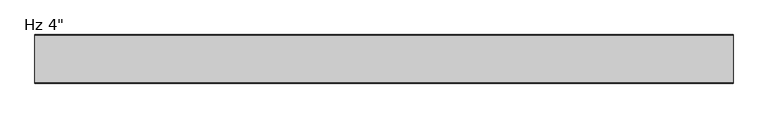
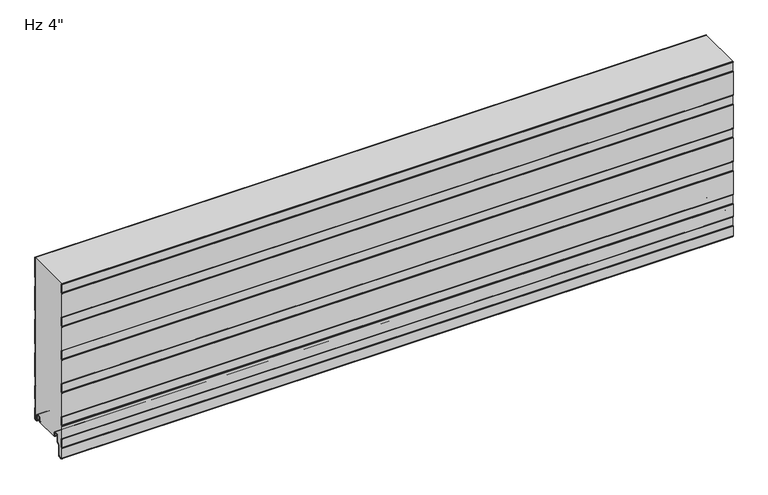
"""IFC4 building model written with IfcOpenShell, lengths in millimetres: plate geometry."""

from ifc_helpers import new_model, si_unit, point, frame, frame_2d, origin, place, context, project, spatial, polyline, circle_curve, trimmed, segment, composite_curve, outline, extrude, source, transform, mapped, element, save
from ifc_brep_helpers import plane_surface, cylinder_surface, revolved_surface, advanced_brep


def plate_e7929396(model_context):
    return source(origin(), model_context, "Body", "SolidModel", [
        extrude(outline(composite_curve([segment(trimmed(circle_curve(frame_2d((-100.1998717, -10.6415934)), 1.3998661), [point((-101.5997378, -10.6415934))], [point((-101.1324955, -9.5976403))], False, "CARTESIAN"), True, "CONTINUOUS"), segment(polyline([(-101.1324955, -9.5976403), (-100.3997693, -8.8649141), (-100.3997693, 10.0260713), (-101.1327349, 10.7590369)]), True, "CONTINUOUS"), segment(trimmed(circle_curve(frame_2d((-100.2000237, 11.8030877)), 1.3999972), [point((-101.1327349, 10.7590369))], [point((-101.6, 11.810741))], False, "CARTESIAN"), True, "CONTINUOUS"), segment(polyline([(-101.6, 11.810741), (-101.6, 40.1582542)]), True, "CONTINUOUS"), segment(trimmed(circle_curve(frame_2d((-100.2000028, 40.1582542)), 1.3999972), [point((-101.6, 40.1582542))], [point((-101.132714, 41.202305))], False, "CARTESIAN"), True, "CONTINUOUS"), segment(polyline([(-101.132714, 41.202305), (-100.3997693, 41.9352497), (-100.3997693, 60.8259189), (-101.1327349, 61.5588845)]), True, "CONTINUOUS"), segment(trimmed(circle_curve(frame_2d((-100.2000237, 62.6029353)), 1.3999972), [point((-101.1327349, 61.5588845))], [point((-101.6, 62.6105886))], False, "CARTESIAN"), True, "CONTINUOUS"), segment(polyline([(-101.6, 62.6105886), (-101.6, 116.3581018)]), True, "CONTINUOUS"), segment(trimmed(circle_curve(frame_2d((-100.2000028, 116.3581018)), 1.3999972), [point((-101.6, 116.3581018))], [point((-101.132714, 117.4021526))], False, "CARTESIAN"), True, "CONTINUOUS"), segment(polyline([(-101.132714, 117.4021526), (-100.3997693, 118.1350973), (-100.3997693, 137.0257665), (-101.1327349, 137.7587321)]), True, "CONTINUOUS"), segment(trimmed(circle_curve(frame_2d((-100.2000237, 138.8027829)), 1.3999972), [point((-101.1327349, 137.7587321))], [point((-101.6, 138.8104362))], False, "CARTESIAN"), True, "CONTINUOUS"), segment(polyline([(-101.6, 138.8104362), (-101.6, 192.5579494)]), True, "CONTINUOUS"), segment(trimmed(circle_curve(frame_2d((-100.2000028, 192.5579494)), 1.3999972), [point((-101.6, 192.5579494))], [point((-101.132714, 193.6020002))], False, "CARTESIAN"), True, "CONTINUOUS"), segment(polyline([(-101.132714, 193.6020002), (-100.3997693, 194.3349449), (-100.3997693, 213.2256141), (-101.1327349, 213.9585797)]), True, "CONTINUOUS"), segment(trimmed(circle_curve(frame_2d((-100.2000237, 215.0026305)), 1.3999972), [point((-101.1327349, 213.9585797))], [point((-101.6, 215.0102838))], False, "CARTESIAN"), True, "CONTINUOUS"), segment(polyline([(-101.6, 215.0102838), (-101.6, 268.757797)]), True, "CONTINUOUS"), segment(trimmed(circle_curve(frame_2d((-100.2000028, 268.757797)), 1.3999972), [point((-101.6, 268.757797))], [point((-101.132714, 269.8018478))], False, "CARTESIAN"), True, "CONTINUOUS"), segment(polyline([(-101.132714, 269.8018478), (-100.3997693, 270.5347925), (-100.3997693, 289.4254617), (-101.1327349, 290.1584273)]), True, "CONTINUOUS"), segment(trimmed(circle_curve(frame_2d((-100.2000237, 291.2024781)), 1.3999972), [point((-101.1327349, 290.1584273))], [point((-101.6, 291.2101314))], False, "CARTESIAN"), True, "CONTINUOUS"), segment(polyline([(-101.6, 291.2101314), (-101.6, 344.9576446)]), True, "CONTINUOUS"), segment(trimmed(circle_curve(frame_2d((-100.2000028, 344.9576446)), 1.3999972), [point((-101.6, 344.9576446))], [point((-101.132714, 346.0016954))], False, "CARTESIAN"), True, "CONTINUOUS"), segment(polyline([(-101.132714, 346.0016954), (-100.3997693, 346.7346401), (-100.3997693, 365.6253093), (-101.1327349, 366.3582749)]), True, "CONTINUOUS"), segment(trimmed(circle_curve(frame_2d((-100.2000237, 367.4023257)), 1.3999972), [point((-101.1327349, 366.3582749))], [point((-101.6, 367.409979))], False, "CARTESIAN"), True, "CONTINUOUS"), segment(polyline([(-101.6, 367.409979), (-101.6, 368.0), (-100.6, 368.0), (-100.6, 367.240544), (-99.3997693, 366.0403133), (-99.3997693, 346.3209008), (-100.6, 345.1206701), (-100.6, 291.0405383), (-99.3997693, 289.8403076), (-99.3997693, 270.1208951), (-100.6, 268.9206644), (-100.6, 214.8405326), (-99.3997693, 213.6403019), (-99.3997693, 193.9208894), (-100.6, 192.7206587), (-100.6, 138.6405269), (-99.3997693, 137.4402962), (-99.3997693, 117.7208837), (-100.6, 116.520653), (-100.6, 62.4405213), (-99.3997693, 61.2402905), (-99.3997693, 41.520878), (-100.6, 40.3206473), (-100.6, 11.6405156), (-99.3997693, 10.4402849), (-99.3997693, -9.2791277), (-100.5997378, -10.4790962), (-100.5997378, -32.4521176)]), True, "CONTINUOUS"), segment(trimmed(circle_curve(frame_2d((-98.0294985, -32.4521176)), 2.5702393), [point((-100.5997378, -32.4521176))], [point((-97.8054129, -35.0125699))], True, "CARTESIAN"), True, "CONTINUOUS"), segment(polyline([(-97.8054129, -35.0125699), (-92.823592, -34.5765709)]), True, "CONTINUOUS"), segment(trimmed(circle_curve(frame_2d((-93.3049826, -31.9198392)), 2.6999926), [point((-92.823592, -34.5765709))], [point((-90.60499, -31.9198392))], True, "CARTESIAN"), True, "CONTINUOUS"), segment(polyline([(-90.60499, -31.9198392), (-90.60499, -9.8247096), (-85.1029189, -4.3226385)]), True, "CONTINUOUS"), segment(trimmed(circle_curve(frame_2d((-86.3049966, -3.1205608)), 1.6999946), [point((-85.1029189, -4.3226385))], [point((-84.605002, -3.1205608))], True, "CARTESIAN"), True, "CONTINUOUS"), segment(polyline([(-84.605002, -3.1205608), (-84.605002, 8.6903283)]), True, "CONTINUOUS"), segment(trimmed(circle_curve(frame_2d((-81.2550067, 8.6903283)), 3.3499953), [point((-84.605002, 8.6903283))], [point((-81.2550067, 12.0403236))], False, "CARTESIAN"), True, "CONTINUOUS"), segment(polyline([(-81.2550067, 12.0403236), (-76.8550155, 12.0403236)]), True, "CONTINUOUS"), segment(trimmed(circle_curve(frame_2d((-76.8550155, 8.6903283)), 3.3499953), [point((-76.8550155, 12.0403236))], [point((-73.5050202, 8.6903283))], False, "CARTESIAN"), True, "CONTINUOUS"), segment(polyline([(-73.5050202, 8.6903283), (-73.5050202, 5.9912173), (-72.1065413, 5.9912173), (-72.1065413, 2.2328239)]), True, "CONTINUOUS"), segment(trimmed(circle_curve(frame_2d((-73.306538, 2.2313092)), 1.1999976), [point((-72.1065413, 2.2328239))], [point((-73.2760161, 1.0316999))], False, "CARTESIAN"), True, "CONTINUOUS"), segment(trimmed(circle_curve(frame_2d((-73.306538, 2.2313092)), 1.1999976), [point((-73.2760161, 1.0316999))], [point((-74.5050202, 2.1710221))], False, "CARTESIAN"), True, "CONTINUOUS"), segment(polyline([(-74.5050202, 2.1710221), (-74.5050202, 8.6903283)]), True, "CONTINUOUS"), segment(trimmed(circle_curve(frame_2d((-76.8550155, 8.6903283)), 2.3499953), [point((-74.5050202, 8.6903283))], [point((-76.8550155, 11.0403236))], True, "CARTESIAN"), True, "CONTINUOUS"), segment(polyline([(-76.8550155, 11.0403236), (-81.2550067, 11.0403236)]), True, "CONTINUOUS"), segment(trimmed(circle_curve(frame_2d((-81.2550067, 8.6903283)), 2.3499953), [point((-81.2550067, 11.0403236))], [point((-83.605002, 8.6903283))], True, "CARTESIAN"), True, "CONTINUOUS"), segment(polyline([(-83.605002, 8.6903283), (-83.605002, -3.1205608)]), True, "CONTINUOUS"), segment(trimmed(circle_curve(frame_2d((-86.3049966, -3.1205608)), 2.6999946), [point((-83.605002, -3.1205608))], [point((-84.3958121, -5.0297453))], False, "CARTESIAN"), True, "CONTINUOUS"), segment(polyline([(-84.3958121, -5.0297453), (-89.2242296, -9.8581627)]), True, "CONTINUOUS"), segment(trimmed(circle_curve(frame_2d((-88.3049926, -10.7773997)), 1.2999974), [point((-89.2242296, -9.8581627))], [point((-89.60499, -10.7773997))], True, "CARTESIAN"), True, "CONTINUOUS"), segment(polyline([(-89.60499, -10.7773997), (-89.60499, -31.9198392)]), True, "CONTINUOUS"), segment(trimmed(circle_curve(frame_2d((-93.3049826, -31.9198392)), 3.6999926), [point((-89.60499, -31.9198392))], [point((-92.6941815, -35.5690675))], False, "CARTESIAN"), True, "CONTINUOUS"), segment(polyline([(-92.6941815, -35.5690675), (-97.7182281, -36.008762)]), True, "CONTINUOUS"), segment(trimmed(circle_curve(frame_2d((-98.0294985, -32.4521176)), 3.5702393), [point((-97.7182281, -36.008762))], [point((-101.5997378, -32.4521176))], False, "CARTESIAN"), True, "CONTINUOUS"), segment(polyline([(-101.5997378, -32.4521176), (-101.5997378, -10.6415934)]), True, "CONTINUOUS")], self_intersect=False)), frame((-730.0, 0.0, 0.0), z_axis=(1.0, 0.0, 0.0), x_axis=(0.0, 1.0, 0.0)), (0.0, 0.0, 1.0), 1460.0),
        advanced_brep(
        [(-730.0, -17.0015159, 2.0313088), (-730.0, -18.0015191, 1.0313115), (-730.0, -19.0015105, 2.0313088), (-730.0, -19.0015105, 6.0315124), (-730.0, -18.0015159, 6.0315124), (-730.0, -18.0015159, 8.7237222), (-730.0, -14.7015202, 12.0237179), (-730.0, -10.301529, 12.0237179), (-730.0, -7.0015335, 8.7237224), (-730.0, -7.0015335, -1.6962565), (-730.0, -5.2315393, -3.4662507), (-730.0, -0.9999916, -3.4662507), (-730.0, -0.9999916, 21.034026), (-730.0, -2.2002307, 22.4196686), (-730.0, -2.2002307, 41.7948349), (-730.0, -1.0, 43.1804678), (-730.0, -1.0, 71.8338832), (-730.0, -2.2002307, 73.2195162), (-730.0, -2.2002307, 92.5946825), (-730.0, -1.0, 93.9803154), (-730.0, -1.0, 148.0337308), (-730.0, -2.2002307, 149.4193638), (-730.0, -2.2002307, 168.7945301), (-730.0, -1.0, 170.180163), (-730.0, -1.0, 224.2335784), (-730.0, -2.2002307, 225.6192114), (-730.0, -2.2002307, 244.9943777), (-730.0, -1.0, 246.3800106), (-730.0, -1.0, 300.433426), (-730.0, -2.2002307, 301.819059), (-730.0, -2.2002307, 321.1942253), (-730.0, -1.0, 322.5798582), (-730.0, -1.0, 368.0), (-730.0, 0.0, 368.0), (-730.0, 0.0, 322.7290094), (-730.0, -0.3417885, 321.8123925), (-730.0, -1.2002307, 320.8213449), (-730.0, -1.2002307, 302.1919394), (-730.0, -0.3417885, 301.2008918), (-730.0, 0.0, 300.2842749), (-730.0, 0.0, 246.5291618), (-730.0, -0.3417885, 245.6125449), (-730.0, -1.2002307, 244.6214973), (-730.0, -1.2002307, 225.9920918), (-730.0, -0.3417885, 225.0010442), (-730.0, 0.0, 224.0844273), (-730.0, 0.0, 170.3293142), (-730.0, -0.3417885, 169.4126973), (-730.0, -1.2002307, 168.4216497), (-730.0, -1.2002307, 149.7922442), (-730.0, -0.3417885, 148.8011966), (-730.0, 0.0, 147.8845797), (-730.0, 0.0, 94.1294666), (-730.0, -0.3417885, 93.2128497), (-730.0, -1.2002307, 92.2218021), (-730.0, -1.2002307, 73.5923966), (-730.0, -0.3417885, 72.601349), (-730.0, 0.0, 71.6847321), (-730.0, 0.0, 43.329619), (-730.0, -0.3417885, 42.4130021), (-730.0, -1.2002307, 41.4219545), (-730.0, -1.2002307, 22.792549), (-730.0, -0.3417885, 21.8015014), (-730.0, 0.0, 20.8847931), (-730.0, 8.4e-06, -3.0662545), (-730.0, -1.3999878, -4.4662507), (-730.0, -5.2315393, -4.4662507), (-730.0, -8.0015335, -1.6962565), (-730.0, -8.0015335, 8.7237224), (-730.0, -10.301529, 11.0237179), (-730.0, -14.7015202, 11.0237179), (-730.0, -17.0015159, 8.7237222), (730.0, -17.0015159, 2.0313088), (730.0, -17.0015159, 8.7237222), (730.0, -14.7015202, 11.0237179), (730.0, -10.301529, 11.0237179), (730.0, -8.0015335, 8.7237224), (730.0, -8.0015335, -1.6962565), (730.0, -5.2315393, -4.4662507), (730.0, -1.3999878, -4.4662507), (730.0, 8.4e-06, -3.0662545), (730.0, 8.4e-06, 20.8848845), (730.0, -0.3417885, 21.8015014), (730.0, -1.2002307, 22.792549), (730.0, -1.2002307, 41.4219545), (730.0, -0.3417885, 42.4130021), (730.0, 0.0, 43.329619), (730.0, 0.0, 71.6847321), (730.0, -0.3417885, 72.601349), (730.0, -1.2002307, 73.5923966), (730.0, -1.2002307, 92.2218021), (730.0, -0.3417885, 93.2128497), (730.0, 0.0, 94.1294666), (730.0, 0.0, 147.8845797), (730.0, -0.3417885, 148.8011966), (730.0, -1.2002307, 149.7922442), (730.0, -1.2002307, 168.4216497), (730.0, -0.3417885, 169.4126973), (730.0, 0.0, 170.3293142), (730.0, 0.0, 224.0844273), (730.0, -0.3417885, 225.0010442), (730.0, -1.2002307, 225.9920918), (730.0, -1.2002307, 244.6214973), (730.0, -0.3417885, 245.6125449), (730.0, 0.0, 246.5291618), (730.0, 0.0, 300.2842749), (730.0, -0.3417885, 301.2008918), (730.0, -1.2002307, 302.1919394), (730.0, -1.2002307, 320.8213449), (730.0, -0.3417885, 321.8123925), (730.0, 0.0, 322.7290094), (730.0, 0.0, 368.0), (730.0, -1.0, 368.0), (730.0, -1.0, 322.5798582), (730.0, -2.2002307, 321.1942253), (730.0, -2.2002307, 301.819059), (730.0, -1.0, 300.433426), (730.0, -1.0, 246.3800106), (730.0, -2.2002307, 244.9943777), (730.0, -2.2002307, 225.6192114), (730.0, -1.0, 224.2335784), (730.0, -1.0, 170.180163), (730.0, -2.2002307, 168.7945301), (730.0, -2.2002307, 149.4193638), (730.0, -1.0, 148.0337308), (730.0, -1.0, 93.9803154), (730.0, -2.2002307, 92.5946825), (730.0, -2.2002307, 73.2195162), (730.0, -1.0, 71.8338832), (730.0, -1.0, 43.1804678), (730.0, -2.2002307, 41.7948349), (730.0, -2.2002307, 22.4196686), (730.0, -0.9999916, 21.034026), (730.0, -0.9999916, -3.4662507), (730.0, -5.2315393, -3.4662507), (730.0, -7.0015335, -1.6962565), (730.0, -7.0015335, 8.7237224), (730.0, -10.301529, 12.0237179), (730.0, -14.7015202, 12.0237179), (730.0, -18.0015159, 8.7237222), (730.0, -18.0015159, 6.0315124), (730.0, -19.0015105, 6.0315124), (730.0, -19.0015105, 2.0313088), (730.0, -18.0015192, 1.0313116)],
        [
            (0, 1, circle_curve(frame((-730.0, -18.0015132, 2.0313088), z_axis=(-1.0, 0.0, 0.0), x_axis=(0.0, 0.0, 1.0)), 0.9999973)),
            (1, 2, circle_curve(frame((-730.0, -18.0015133, 2.0313088), z_axis=(-1.0, 0.0, 0.0), x_axis=(0.0, 0.0, 1.0)), 0.9999972)),
            (2, 3),
            (3, 4),
            (4, 5),
            (5, 6, circle_curve(frame((-730.0, -14.7015202, 8.7237222), z_axis=(-1.0, 0.0, 0.0), x_axis=(0.0, 0.0, 1.0)), 3.2999957)),
            (6, 7),
            (7, 8, circle_curve(frame((-730.0, -10.301529, 8.7237224), z_axis=(-1.0, 0.0, 0.0), x_axis=(0.0, 0.0, 1.0)), 3.2999955)),
            (8, 9),
            (9, 10, circle_curve(frame((-730.0, -5.2315393, -1.6962565), z_axis=(1.0, 0.0, 0.0), x_axis=(0.0, 0.0, 1.0)), 1.7699942)),
            (10, 11),
            (11, 12),
            (12, 13),
            (13, 14),
            (14, 15),
            (15, 16),
            (16, 17),
            (17, 18),
            (18, 19),
            (19, 20),
            (20, 21),
            (21, 22),
            (22, 23),
            (23, 24),
            (24, 25),
            (25, 26),
            (26, 27),
            (27, 28),
            (28, 29),
            (29, 30),
            (30, 31),
            (31, 32),
            (32, 33),
            (33, 34),
            (34, 35, circle_curve(frame((-730.0, -1.3999972, 322.7290094), z_axis=(-1.0, 0.0, 0.0), x_axis=(0.0, 0.0, 1.0)), 1.3999972)),
            (35, 36),
            (36, 37),
            (37, 38),
            (38, 39, circle_curve(frame((-730.0, -1.3999972, 300.2842749), z_axis=(-1.0, 0.0, 0.0), x_axis=(0.0, 0.0, 1.0)), 1.3999972)),
            (39, 40),
            (40, 41, circle_curve(frame((-730.0, -1.3999972, 246.5291618), z_axis=(-1.0, 0.0, 0.0), x_axis=(0.0, 0.0, 1.0)), 1.3999972)),
            (41, 42),
            (42, 43),
            (43, 44),
            (44, 45, circle_curve(frame((-730.0, -1.3999972, 224.0844273), z_axis=(-1.0, 0.0, 0.0), x_axis=(0.0, 0.0, 1.0)), 1.3999972)),
            (45, 46),
            (46, 47, circle_curve(frame((-730.0, -1.3999972, 170.3293142), z_axis=(-1.0, 0.0, 0.0), x_axis=(0.0, 0.0, 1.0)), 1.3999972)),
            (47, 48),
            (48, 49),
            (49, 50),
            (50, 51, circle_curve(frame((-730.0, -1.3999972, 147.8845797), z_axis=(-1.0, 0.0, 0.0), x_axis=(0.0, 0.0, 1.0)), 1.3999972)),
            (51, 52),
            (52, 53, circle_curve(frame((-730.0, -1.3999972, 94.1294666), z_axis=(-1.0, 0.0, 0.0), x_axis=(0.0, 0.0, 1.0)), 1.3999972)),
            (53, 54),
            (54, 55),
            (55, 56),
            (56, 57, circle_curve(frame((-730.0, -1.3999972, 71.6847321), z_axis=(-1.0, 0.0, 0.0), x_axis=(0.0, 0.0, 1.0)), 1.3999972)),
            (57, 58),
            (58, 59, circle_curve(frame((-730.0, -1.3999972, 43.329619), z_axis=(-1.0, 0.0, 0.0), x_axis=(0.0, 0.0, 1.0)), 1.3999972)),
            (59, 60),
            (60, 61),
            (61, 62),
            (62, 63, circle_curve(frame((-730.0, -1.3999972, 20.8848845), z_axis=(-1.0, 0.0, 0.0), x_axis=(0.0, 0.0, 1.0)), 1.3999972)),
            (63, 64),
            (64, 65, circle_curve(frame((-730.0, -1.3999878, -3.0662545), z_axis=(-1.0, 0.0, 0.0), x_axis=(0.0, 0.0, 1.0)), 1.3999962)),
            (65, 66),
            (66, 67, circle_curve(frame((-730.0, -5.2315393, -1.6962565), z_axis=(-1.0, 0.0, 0.0), x_axis=(0.0, 0.0, 1.0)), 2.7699942)),
            (67, 68),
            (68, 69, circle_curve(frame((-730.0, -10.301529, 8.7237224), z_axis=(1.0, 0.0, 0.0), x_axis=(0.0, 0.0, 1.0)), 2.2999955)),
            (69, 70),
            (70, 71, circle_curve(frame((-730.0, -14.7015202, 8.7237222), z_axis=(1.0, 0.0, 0.0), x_axis=(0.0, 0.0, 1.0)), 2.2999957)),
            (71, 0),
            (72, 73),
            (73, 74, circle_curve(frame((730.0, -14.7015202, 8.7237222), z_axis=(-1.0, 0.0, 0.0), x_axis=(0.0, 0.0, 1.0)), 2.2999957)),
            (74, 75),
            (75, 76, circle_curve(frame((730.0, -10.301529, 8.7237224), z_axis=(-1.0, 0.0, 0.0), x_axis=(0.0, 0.0, 1.0)), 2.2999955)),
            (76, 77),
            (77, 78, circle_curve(frame((730.0, -5.2315393, -1.6962565), z_axis=(1.0, 0.0, 0.0), x_axis=(0.0, 0.0, 1.0)), 2.7699942)),
            (78, 79),
            (79, 80, circle_curve(frame((730.0, -1.3999878, -3.0662545), z_axis=(1.0, 0.0, 0.0), x_axis=(0.0, 0.0, 1.0)), 1.3999962)),
            (80, 81),
            (81, 82, circle_curve(frame((730.0, -1.3999972, 20.8848845), z_axis=(1.0, 0.0, 0.0), x_axis=(0.0, 0.0, 1.0)), 1.3999972)),
            (82, 83),
            (83, 84),
            (84, 85),
            (85, 86, circle_curve(frame((730.0, -1.3999972, 43.329619), z_axis=(1.0, 0.0, 0.0), x_axis=(0.0, 0.0, 1.0)), 1.3999972)),
            (86, 87),
            (87, 88, circle_curve(frame((730.0, -1.3999972, 71.6847321), z_axis=(1.0, 0.0, 0.0), x_axis=(0.0, 0.0, 1.0)), 1.3999972)),
            (88, 89),
            (89, 90),
            (90, 91),
            (91, 92, circle_curve(frame((730.0, -1.3999972, 94.1294666), z_axis=(1.0, 0.0, 0.0), x_axis=(0.0, 0.0, 1.0)), 1.3999972)),
            (92, 93),
            (93, 94, circle_curve(frame((730.0, -1.3999972, 147.8845797), z_axis=(1.0, 0.0, 0.0), x_axis=(0.0, 0.0, 1.0)), 1.3999972)),
            (94, 95),
            (95, 96),
            (96, 97),
            (97, 98, circle_curve(frame((730.0, -1.3999972, 170.3293142), z_axis=(1.0, 0.0, 0.0), x_axis=(0.0, 0.0, 1.0)), 1.3999972)),
            (98, 99),
            (99, 100, circle_curve(frame((730.0, -1.3999972, 224.0844273), z_axis=(1.0, 0.0, 0.0), x_axis=(0.0, 0.0, 1.0)), 1.3999972)),
            (100, 101),
            (101, 102),
            (102, 103),
            (103, 104, circle_curve(frame((730.0, -1.3999972, 246.5291618), z_axis=(1.0, 0.0, 0.0), x_axis=(0.0, 0.0, 1.0)), 1.3999972)),
            (104, 105),
            (105, 106, circle_curve(frame((730.0, -1.3999972, 300.2842749), z_axis=(1.0, 0.0, 0.0), x_axis=(0.0, 0.0, 1.0)), 1.3999972)),
            (106, 107),
            (107, 108),
            (108, 109),
            (109, 110, circle_curve(frame((730.0, -1.3999972, 322.7290094), z_axis=(1.0, 0.0, 0.0), x_axis=(0.0, 0.0, 1.0)), 1.3999972)),
            (110, 111),
            (111, 112),
            (112, 113),
            (113, 114),
            (114, 115),
            (115, 116),
            (116, 117),
            (117, 118),
            (118, 119),
            (119, 120),
            (120, 121),
            (121, 122),
            (122, 123),
            (123, 124),
            (124, 125),
            (125, 126),
            (126, 127),
            (127, 128),
            (128, 129),
            (129, 130),
            (130, 131),
            (131, 132),
            (132, 133),
            (133, 134),
            (134, 135, circle_curve(frame((730.0, -5.2315393, -1.6962565), z_axis=(-1.0, 0.0, 0.0), x_axis=(0.0, 0.0, 1.0)), 1.7699942)),
            (135, 136),
            (136, 137, circle_curve(frame((730.0, -10.301529, 8.7237224), z_axis=(1.0, 0.0, 0.0), x_axis=(0.0, 0.0, 1.0)), 3.2999955)),
            (137, 138),
            (138, 139, circle_curve(frame((730.0, -14.7015202, 8.7237222), z_axis=(1.0, 0.0, 0.0), x_axis=(0.0, 0.0, 1.0)), 3.2999957)),
            (139, 140),
            (140, 141),
            (141, 142),
            (142, 143, circle_curve(frame((730.0, -18.0015133, 2.0313088), z_axis=(1.0, 0.0, 0.0), x_axis=(0.0, 0.0, 1.0)), 0.9999972)),
            (143, 72, circle_curve(frame((730.0, -18.0015132, 2.0313088), z_axis=(1.0, 0.0, 0.0), x_axis=(0.0, 0.0, 1.0)), 0.9999973)),
            (32, 112),
            (111, 33),
            (67, 77),
            (76, 68),
            (0, 72),
            (143, 1),
            (71, 73),
            (70, 74),
            (75, 69),
            (65, 79),
            (78, 66),
            (64, 80),
            (63, 81),
            (2, 142),
            (141, 3),
            (56, 88),
            (87, 57),
            (61, 83),
            (82, 62),
            (60, 84),
            (58, 86),
            (85, 59),
            (50, 94),
            (93, 51),
            (54, 90),
            (89, 55),
            (52, 92),
            (91, 53),
            (44, 100),
            (99, 45),
            (48, 96),
            (95, 49),
            (46, 98),
            (97, 47),
            (38, 106),
            (105, 39),
            (42, 102),
            (101, 43),
            (40, 104),
            (103, 41),
            (36, 108),
            (107, 37),
            (34, 110),
            (109, 35),
            (27, 117),
            (116, 28),
            (115, 29),
            (114, 30),
            (113, 31),
            (26, 118),
            (25, 119),
            (24, 120),
            (23, 121),
            (22, 122),
            (21, 123),
            (20, 124),
            (19, 125),
            (18, 126),
            (17, 127),
            (16, 128),
            (15, 129),
            (14, 130),
            (140, 4),
            (139, 5),
            (138, 6),
            (137, 7),
            (136, 8),
            (135, 9),
            (12, 132),
            (131, 13),
            (11, 133),
            (10, 134),
        ],
        [
            plane_surface(frame((-730.0, 0.0, 508.0), z_axis=(-1.0, 0.0, 0.0), x_axis=(0.0, 1.0, 0.0))),
            plane_surface(frame((730.0, 0.0, 508.0), z_axis=(1.0, 0.0, 0.0), x_axis=(0.0, 1.0, 0.0))),
            plane_surface(frame((730.0, 10.0, 368.0), z_axis=(0.0, 0.0, 1.0), x_axis=(-1.0, 0.0, 0.0))),
            plane_surface(frame((-730.0, -8.0015335, 8.7237224), z_axis=(0.0, -1.0, 0.0), x_axis=(1.0, 0.0, 0.0))),
            cylinder_surface(frame((-730.0, -18.0015132, 2.0313088), z_axis=(-1.0, 0.0, 0.0), x_axis=(0.0, 0.0, 1.0)), 0.9999973),
            plane_surface(frame((-730.0, -17.0015159, 2.0313088), z_axis=(0.0, 1.0, 0.0), x_axis=(1.0, 0.0, 0.0))),
            revolved_surface(polyline([(730.0, -14.7015202, 11.0237179), (-730.0, -14.7015202, 11.0237179)]), (-730.0, -14.7015202, 8.7237222), (1.0, 0.0, 0.0)),
            revolved_surface(polyline([(730.0, -10.301529, 11.0237179), (-730.0, -10.301529, 11.0237179)]), (-730.0, -10.301529, 8.7237224), (1.0, 0.0, 0.0)),
            plane_surface(frame((-730.0, -14.7015202, 11.0237179), z_axis=(0.0, 0.0, -1.0), x_axis=(1.0, 0.0, 0.0))),
            plane_surface(frame((-730.0, -5.2315393, -4.4662507), z_axis=(0.0, 0.0, -1.0), x_axis=(1.0, 0.0, 0.0))),
            cylinder_surface(frame((-730.0, -1.3999878, -3.0662545), z_axis=(-1.0, 0.0, 0.0), x_axis=(0.0, 0.0, 1.0)), 1.3999962),
            cylinder_surface(frame((-730.0, -5.2315393, -1.6962565), z_axis=(-1.0, 0.0, 0.0), x_axis=(0.0, 0.0, 1.0)), 2.7699942),
            plane_surface(frame((-730.0, 8.4e-06, -3.0662545), z_axis=(0.0, 1.0, 0.0), x_axis=(1.0, 0.0, 0.0))),
            plane_surface(frame((-730.0, -19.0015105, 6.0315124), z_axis=(0.0, -1.0, 0.0), x_axis=(1.0, 0.0, 0.0))),
            cylinder_surface(frame((-730.0, -18.0015133, 2.0313088), z_axis=(-1.0, 0.0, 0.0), x_axis=(0.0, 0.0, 1.0)), 0.9999972),
            cylinder_surface(frame((-730.0, -1.3999972, 71.6847321), z_axis=(-1.0, 0.0, 0.0), x_axis=(0.0, 0.0, 1.0)), 1.3999972),
            plane_surface(frame((-730.0, -0.3417885, 21.8015014), z_axis=(0.0, 0.755864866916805, 0.6547276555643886), x_axis=(1.0, 0.0, 0.0))),
            plane_surface(frame((-730.0, -1.2002307, 32.1072517), z_axis=(0.0, 1.0, 0.0), x_axis=(1.0, 0.0, 0.0))),
            cylinder_surface(frame((-730.0, -1.3999972, 20.8848845), z_axis=(-1.0, 0.0, 0.0), x_axis=(0.0, 0.0, 1.0)), 1.3999972),
            cylinder_surface(frame((-730.0, -1.3999972, 43.329619), z_axis=(-1.0, 0.0, 0.0), x_axis=(0.0, 0.0, 1.0)), 1.3999972),
            plane_surface(frame((-730.0, -1.2002307, 41.4219545), z_axis=(0.0, 0.755864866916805, -0.6547276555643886), x_axis=(1.0, 0.0, 0.0))),
            cylinder_surface(frame((-730.0, -1.3999972, 147.8845797), z_axis=(-1.0, 0.0, 0.0), x_axis=(0.0, 0.0, 1.0)), 1.3999972),
            plane_surface(frame((-730.0, -1.2002307, 82.9070993), z_axis=(0.0, 1.0, 0.0), x_axis=(1.0, 0.0, 0.0))),
            cylinder_surface(frame((-730.0, -1.3999972, 94.1294666), z_axis=(-1.0, 0.0, 0.0), x_axis=(0.0, 0.0, 1.0)), 1.3999972),
            plane_surface(frame((-730.0, -0.3417885, 72.601349), z_axis=(0.0, 0.755864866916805, 0.6547276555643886), x_axis=(1.0, 0.0, 0.0))),
            plane_surface(frame((-730.0, -1.2002307, 92.2218021), z_axis=(0.0, 0.755864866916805, -0.6547276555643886), x_axis=(1.0, 0.0, 0.0))),
            plane_surface(frame((-730.0, 0.0, 43.329619), z_axis=(0.0, 1.0, 0.0), x_axis=(1.0, 0.0, 0.0))),
            cylinder_surface(frame((-730.0, -1.3999972, 224.0844273), z_axis=(-1.0, 0.0, 0.0), x_axis=(0.0, 0.0, 1.0)), 1.3999972),
            plane_surface(frame((-730.0, -1.2002307, 159.1069469), z_axis=(0.0, 1.0, 0.0), x_axis=(1.0, 0.0, 0.0))),
            cylinder_surface(frame((-730.0, -1.3999972, 170.3293142), z_axis=(-1.0, 0.0, 0.0), x_axis=(0.0, 0.0, 1.0)), 1.3999972),
            plane_surface(frame((-730.0, -0.3417885, 148.8011966), z_axis=(0.0, 0.755864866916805, 0.6547276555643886), x_axis=(1.0, 0.0, 0.0))),
            plane_surface(frame((-730.0, -1.2002307, 168.4216497), z_axis=(0.0, 0.755864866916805, -0.6547276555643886), x_axis=(1.0, 0.0, 0.0))),
            plane_surface(frame((-730.0, 0.0, 94.1294666), z_axis=(0.0, 1.0, 0.0), x_axis=(1.0, 0.0, 0.0))),
            cylinder_surface(frame((-730.0, -1.3999972, 300.2842749), z_axis=(-1.0, 0.0, 0.0), x_axis=(0.0, 0.0, 1.0)), 1.3999972),
            plane_surface(frame((-730.0, -1.2002307, 235.3067945), z_axis=(0.0, 1.0, 0.0), x_axis=(1.0, 0.0, 0.0))),
            cylinder_surface(frame((-730.0, -1.3999972, 246.5291618), z_axis=(-1.0, 0.0, 0.0), x_axis=(0.0, 0.0, 1.0)), 1.3999972),
            plane_surface(frame((-730.0, -0.3417885, 225.0010442), z_axis=(0.0, 0.755864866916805, 0.6547276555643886), x_axis=(1.0, 0.0, 0.0))),
            plane_surface(frame((-730.0, -1.2002307, 244.6214973), z_axis=(0.0, 0.755864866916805, -0.6547276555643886), x_axis=(1.0, 0.0, 0.0))),
            plane_surface(frame((-730.0, 0.0, 170.3293142), z_axis=(0.0, 1.0, 0.0), x_axis=(1.0, 0.0, 0.0))),
            plane_surface(frame((-730.0, -1.2002307, 311.5066421), z_axis=(0.0, 1.0, 0.0), x_axis=(1.0, 0.0, 0.0))),
            cylinder_surface(frame((-730.0, -1.3999972, 322.7290094), z_axis=(-1.0, 0.0, 0.0), x_axis=(0.0, 0.0, 1.0)), 1.3999972),
            plane_surface(frame((-730.0, -0.3417885, 301.2008918), z_axis=(0.0, 0.755864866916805, 0.6547276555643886), x_axis=(1.0, 0.0, 0.0))),
            plane_surface(frame((-730.0, -1.2002307, 320.8213449), z_axis=(0.0, 0.755864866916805, -0.6547276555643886), x_axis=(1.0, 0.0, 0.0))),
            plane_surface(frame((-730.0, 0.0, 246.5291618), z_axis=(0.0, 1.0, 0.0), x_axis=(1.0, 0.0, 0.0))),
            plane_surface(frame((-730.0, 0.0, 322.7290094), z_axis=(0.0, 1.0, 0.0), x_axis=(1.0, 0.0, 0.0))),
            plane_surface(frame((-730.0, -1.0, 300.433426), z_axis=(0.0, -1.0, 0.0), x_axis=(1.0, 0.0, 0.0))),
            plane_surface(frame((-730.0, -2.2002307, 301.819059), z_axis=(0.0, -0.755864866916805, -0.6547276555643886), x_axis=(1.0, 0.0, 0.0))),
            plane_surface(frame((-730.0, -2.2002307, 321.1942253), z_axis=(0.0, -1.0, 0.0), x_axis=(1.0, 0.0, 0.0))),
            plane_surface(frame((-730.0, -1.0, 322.5798582), z_axis=(0.0, -0.755864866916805, 0.6547276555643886), x_axis=(1.0, 0.0, 0.0))),
            plane_surface(frame((-730.0, -1.0, 376.6332736), z_axis=(0.0, -1.0, 0.0), x_axis=(1.0, 0.0, 0.0))),
            plane_surface(frame((-730.0, -1.0, 246.3800106), z_axis=(0.0, -0.755864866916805, 0.6547276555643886), x_axis=(1.0, 0.0, 0.0))),
            plane_surface(frame((-730.0, -2.2002307, 244.9943777), z_axis=(0.0, -1.0, 0.0), x_axis=(1.0, 0.0, 0.0))),
            plane_surface(frame((-730.0, -2.2002307, 225.6192114), z_axis=(0.0, -0.755864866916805, -0.6547276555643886), x_axis=(1.0, 0.0, 0.0))),
            plane_surface(frame((-730.0, -1.0, 224.2335784), z_axis=(0.0, -1.0, 0.0), x_axis=(1.0, 0.0, 0.0))),
            plane_surface(frame((-730.0, -1.0, 170.180163), z_axis=(0.0, -0.755864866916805, 0.6547276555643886), x_axis=(1.0, 0.0, 0.0))),
            plane_surface(frame((-730.0, -2.2002307, 168.7945301), z_axis=(0.0, -1.0, 0.0), x_axis=(1.0, 0.0, 0.0))),
            plane_surface(frame((-730.0, -2.2002307, 149.4193638), z_axis=(0.0, -0.755864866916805, -0.6547276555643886), x_axis=(1.0, 0.0, 0.0))),
            plane_surface(frame((-730.0, -1.0, 148.0337308), z_axis=(0.0, -1.0, 0.0), x_axis=(1.0, 0.0, 0.0))),
            plane_surface(frame((-730.0, -1.0, 93.9803154), z_axis=(0.0, -0.755864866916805, 0.6547276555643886), x_axis=(1.0, 0.0, 0.0))),
            plane_surface(frame((-730.0, -2.2002307, 92.5946825), z_axis=(0.0, -1.0, 0.0), x_axis=(1.0, 0.0, 0.0))),
            plane_surface(frame((-730.0, -2.2002307, 73.2195162), z_axis=(0.0, -0.755864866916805, -0.6547276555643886), x_axis=(1.0, 0.0, 0.0))),
            plane_surface(frame((-730.0, -1.0, 71.8338832), z_axis=(0.0, -1.0, 0.0), x_axis=(1.0, 0.0, 0.0))),
            plane_surface(frame((-730.0, -1.0, 43.1804678), z_axis=(0.0, -0.755864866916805, 0.6547276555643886), x_axis=(1.0, 0.0, 0.0))),
            plane_surface(frame((-730.0, -18.0015159, 6.0315124), z_axis=(0.0, 0.0, 1.0), x_axis=(1.0, 0.0, 0.0))),
            plane_surface(frame((-730.0, -18.0015159, 8.7237222), z_axis=(0.0, -1.0, 0.0), x_axis=(1.0, 0.0, 0.0))),
            cylinder_surface(frame((-730.0, -14.7015202, 8.7237222), z_axis=(-1.0, 0.0, 0.0), x_axis=(0.0, 0.0, 1.0)), 3.2999957),
            plane_surface(frame((-730.0, -10.301529, 12.0237179), z_axis=(0.0, 0.0, 1.0), x_axis=(1.0, 0.0, 0.0))),
            cylinder_surface(frame((-730.0, -10.301529, 8.7237224), z_axis=(-1.0, 0.0, 0.0), x_axis=(0.0, 0.0, 1.0)), 3.2999955),
            plane_surface(frame((-730.0, -7.0015335, -1.6962565), z_axis=(0.0, 1.0, 0.0), x_axis=(1.0, 0.0, 0.0))),
            plane_surface(frame((-730.0, -2.2002307, 22.4196686), z_axis=(0.0, -0.755864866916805, -0.6547276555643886), x_axis=(1.0, 0.0, 0.0))),
            plane_surface(frame((-730.0, -2.2002307, 41.7948349), z_axis=(0.0, -1.0, 0.0), x_axis=(1.0, 0.0, 0.0))),
            plane_surface(frame((-730.0, -0.9999916, 21.034026), z_axis=(0.0, -1.0, 0.0), x_axis=(1.0, 0.0, 0.0))),
            plane_surface(frame((-730.0, -0.9999916, -3.4662507), z_axis=(0.0, 0.0, 1.0), x_axis=(1.0, 0.0, 0.0))),
            revolved_surface(polyline([(730.0, -5.2315393, 0.0737376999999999), (-730.0, -5.2315393, 0.0737376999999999)]), (-730.0, -5.2315393, -1.6962565), (1.0, 0.0, 0.0)),
        ],
        [
            (0, [[1, 2, 3, 4, 5, 6, 7, 8, 9, 10, 11, 12, 13, 14, 15, 16, 17, 18, 19, 20, 21, 22, 23, 24, 25, 26, 27, 28, 29, 30, 31, 32, 33, 34, 35, 36, 37, 38, 39, 40, 41, 42, 43, 44, 45, 46, 47, 48, 49, 50, 51, 52, 53, 54, 55, 56, 57, 58, 59, 60, 61, 62, 63, 64, 65, 66, 67, 68, 69, 70, 71, 72]]),
            (1, [[73, 74, 75, 76, 77, 78, 79, 80, 81, 82, 83, 84, 85, 86, 87, 88, 89, 90, 91, 92, 93, 94, 95, 96, 97, 98, 99, 100, 101, 102, 103, 104, 105, 106, 107, 108, 109, 110, 111, 112, 113, 114, 115, 116, 117, 118, 119, 120, 121, 122, 123, 124, 125, 126, 127, 128, 129, 130, 131, 132, 133, 134, 135, 136, 137, 138, 139, 140, 141, 142, 143, 144]]),
            (2, [[145, -112, 146, -33]]),
            (3, [[147, -77, 148, -68]]),
            (4, [[149, -144, 150, -1]]),
            (5, [[151, -73, -149, -72]]),
            (6, [[152, -74, -151, -71]]),
            (7, [[-148, -76, 153, -69]]),
            (8, [[-153, -75, -152, -70]]),
            (9, [[154, -79, 155, -66]]),
            (10, [[156, -80, -154, -65]]),
            (11, [[-155, -78, -147, -67]]),
            (12, [[157, -81, -156, -64]]),
            (13, [[158, -142, 159, -3]]),
            (14, [[-150, -143, -158, -2]]),
            (15, [[160, -88, 161, -57]]),
            (16, [[162, -83, 163, -62]]),
            (17, [[164, -84, -162, -61]]),
            (18, [[-163, -82, -157, -63]]),
            (19, [[165, -86, 166, -59]]),
            (20, [[-166, -85, -164, -60]]),
            (21, [[167, -94, 168, -51]]),
            (22, [[169, -90, 170, -55]]),
            (23, [[171, -92, 172, -53]]),
            (24, [[-170, -89, -160, -56]]),
            (25, [[-172, -91, -169, -54]]),
            (26, [[-161, -87, -165, -58]]),
            (27, [[173, -100, 174, -45]]),
            (28, [[175, -96, 176, -49]]),
            (29, [[177, -98, 178, -47]]),
            (30, [[-176, -95, -167, -50]]),
            (31, [[-178, -97, -175, -48]]),
            (32, [[-168, -93, -171, -52]]),
            (33, [[179, -106, 180, -39]]),
            (34, [[181, -102, 182, -43]]),
            (35, [[183, -104, 184, -41]]),
            (36, [[-182, -101, -173, -44]]),
            (37, [[-184, -103, -181, -42]]),
            (38, [[-174, -99, -177, -46]]),
            (39, [[185, -108, 186, -37]]),
            (40, [[187, -110, 188, -35]]),
            (41, [[-186, -107, -179, -38]]),
            (42, [[-188, -109, -185, -36]]),
            (43, [[-180, -105, -183, -40]]),
            (44, [[-34, -146, -111, -187]]),
            (45, [[189, -117, 190, -28]]),
            (46, [[-190, -116, 191, -29]]),
            (47, [[-191, -115, 192, -30]]),
            (48, [[-192, -114, 193, -31]]),
            (49, [[-113, -145, -32, -193]]),
            (50, [[194, -118, -189, -27]]),
            (51, [[195, -119, -194, -26]]),
            (52, [[196, -120, -195, -25]]),
            (53, [[197, -121, -196, -24]]),
            (54, [[198, -122, -197, -23]]),
            (55, [[199, -123, -198, -22]]),
            (56, [[200, -124, -199, -21]]),
            (57, [[201, -125, -200, -20]]),
            (58, [[202, -126, -201, -19]]),
            (59, [[203, -127, -202, -18]]),
            (60, [[204, -128, -203, -17]]),
            (61, [[205, -129, -204, -16]]),
            (62, [[206, -130, -205, -15]]),
            (63, [[-159, -141, 207, -4]]),
            (64, [[-207, -140, 208, -5]]),
            (65, [[-208, -139, 209, -6]]),
            (66, [[-209, -138, 210, -7]]),
            (67, [[-210, -137, 211, -8]]),
            (68, [[-211, -136, 212, -9]]),
            (69, [[213, -132, 214, -13]]),
            (70, [[-214, -131, -206, -14]]),
            (71, [[215, -133, -213, -12]]),
            (72, [[216, -134, -215, -11]]),
            (73, [[-212, -135, -216, -10]]),
        ],
    ),
        extrude(outline(composite_curve([segment(trimmed(circle_curve(frame_2d((-73.306538, 2.2313092)), 1.1999976), [point((-73.2760161, 1.0316999))], [point((-72.1065413, 2.2328239))], True, "CARTESIAN"), True, "CONTINUOUS"), segment(polyline([(-72.1065413, 2.2328239), (-72.1065413, 5.9912173), (-73.5050202, 5.9912173), (-73.5050202, 8.6903283)]), True, "CONTINUOUS"), segment(trimmed(circle_curve(frame_2d((-76.8550155, 8.6903283)), 3.3499953), [point((-73.5050202, 8.6903283))], [point((-76.8550155, 12.0403236))], True, "CARTESIAN"), True, "CONTINUOUS"), segment(polyline([(-76.8550155, 12.0403236), (-81.2550067, 12.0403236)]), True, "CONTINUOUS"), segment(trimmed(circle_curve(frame_2d((-81.2550067, 8.6903283)), 3.3499953), [point((-81.2550067, 12.0403236))], [point((-84.605002, 8.6903283))], True, "CARTESIAN"), True, "CONTINUOUS"), segment(polyline([(-84.605002, 8.6903283), (-84.605002, -3.1205608)]), True, "CONTINUOUS"), segment(trimmed(circle_curve(frame_2d((-86.3049966, -3.1205608)), 1.6999946), [point((-84.605002, -3.1205608))], [point((-85.1029189, -4.3226385))], False, "CARTESIAN"), True, "CONTINUOUS"), segment(polyline([(-85.1029189, -4.3226385), (-90.60499, -9.8247096), (-90.60499, -31.9198392)]), True, "CONTINUOUS"), segment(trimmed(circle_curve(frame_2d((-93.3049826, -31.9198392)), 2.6999926), [point((-90.60499, -31.9198392))], [point((-92.823592, -34.5765709))], False, "CARTESIAN"), True, "CONTINUOUS"), segment(polyline([(-92.823592, -34.5765709), (-97.8054129, -35.0125699)]), True, "CONTINUOUS"), segment(trimmed(circle_curve(frame_2d((-98.0294985, -32.4521176)), 2.5702393), [point((-97.8054129, -35.0125699))], [point((-100.5997378, -32.4521176))], False, "CARTESIAN"), True, "CONTINUOUS"), segment(polyline([(-100.5997378, -32.4521176), (-100.5997378, -10.4790962), (-99.3997693, -9.2791277), (-99.3997693, 10.4402849), (-100.6, 11.6405156), (-100.6, 40.3206473), (-99.3997693, 41.520878), (-99.3997693, 61.2402905), (-100.6, 62.4405213), (-100.6, 116.520653), (-99.3997693, 117.7208837), (-99.3997693, 137.4402962), (-100.6, 138.6405269), (-100.6, 192.7206587), (-99.3997693, 193.9208894), (-99.3997693, 213.6403019), (-100.6, 214.8405326), (-100.6, 268.9206644), (-99.3997693, 270.1208951), (-99.3997693, 289.8403076), (-100.6, 291.0405383), (-100.6, 345.1206701), (-99.3997693, 346.3209008), (-99.3997693, 366.0403133), (-100.6, 367.240544), (-100.6, 368.0), (-1.0, 368.0), (-1.0, 322.5798583), (-2.2002307, 321.1942253), (-2.2002307, 301.819059), (-1.0, 300.4334261), (-1.0, 246.3800107), (-2.2002307, 244.9943777), (-2.2002307, 225.6192114), (-1.0, 224.2335785), (-1.0, 170.1801631), (-2.2002307, 168.7945301), (-2.2002307, 149.4193638), (-1.0, 148.0337309), (-1.0, 93.9803155), (-2.2002307, 92.5946825), (-2.2002307, 73.2195162), (-1.0, 71.8338833), (-1.0, 43.1804679), (-2.2002307, 41.7948349), (-2.2002307, 22.4196686), (-0.9999916, 21.034026), (-0.9999916, -3.4662506), (-5.2315389, -3.4662506)]), True, "CONTINUOUS"), segment(trimmed(circle_curve(frame_2d((-5.2315389, -1.6962564)), 1.7699942), [point((-5.2315389, -3.4662506))], [point((-7.0015331, -1.6962564))], False, "CARTESIAN"), True, "CONTINUOUS"), segment(polyline([(-7.0015331, -1.6962564), (-7.0015331, 8.7237221)]), True, "CONTINUOUS"), segment(trimmed(circle_curve(frame_2d((-10.301529, 8.7237221)), 3.2999959), [point((-7.0015331, 8.7237221))], [point((-10.301529, 12.023718))], True, "CARTESIAN"), True, "CONTINUOUS"), segment(polyline([(-10.301529, 12.023718), (-14.7015202, 12.023718)]), True, "CONTINUOUS"), segment(trimmed(circle_curve(frame_2d((-14.7015202, 8.7237223)), 3.2999957), [point((-14.7015202, 12.023718))], [point((-18.0015159, 8.7237223))], True, "CARTESIAN"), True, "CONTINUOUS"), segment(polyline([(-18.0015159, 8.7237223), (-18.0015159, 6.0315125), (-19.0015105, 6.0315125), (-19.0015105, 2.0313088)]), True, "CONTINUOUS"), segment(trimmed(circle_curve(frame_2d((-18.0015133, 2.0313088)), 0.9999972), [point((-19.0015105, 2.0313088))], [point((-18.0015192, 1.0313116))], True, "CARTESIAN"), True, "CONTINUOUS"), segment(polyline([(-18.0015192, 1.0313116), (-19.0328308, 0.0), (-72.2443162, 0.0), (-73.2760161, 1.0316999)]), True, "CONTINUOUS")], self_intersect=False)), frame((-730.0, 0.0, 0.0), z_axis=(1.0, 0.0, 0.0), x_axis=(0.0, 1.0, 0.0)), (0.0, 0.0, 1.0), 1460.0),
    ])


if __name__ == "__main__":
    model = new_model("IFC4")
    model_context = context("Model", 3, world=origin())
    ifc_project = project(units=[si_unit("LENGTHUNIT", "METRE", prefix="MILLI")], contexts=[model_context])
    site = spatial("IfcSite", under=ifc_project)
    building = spatial("IfcBuilding", under=site)
    placement = place(None, origin())
    plate_shape = plate_e7929396(model_context)
    element("IfcPlate", 1, ObjectType="KIP-40-Karrier-KP-R19-CP-Hz-SL3-8in_SL : Hz 4\"", at=placement, inside=building, context=model_context, shape_type="MappedRepresentation", body=[
        mapped(plate_shape, transform((0.0, 0.0, 0.0), x_axis=(1.0, 0.0, 0.0), y_axis=(0.0, 1.0, 0.0), z_axis=(0.0, 0.0, 1.0))),
    ])
    save(model, "model.ifc")
